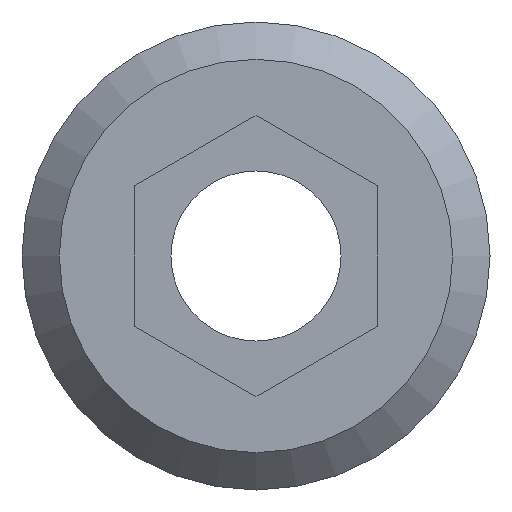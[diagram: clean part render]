
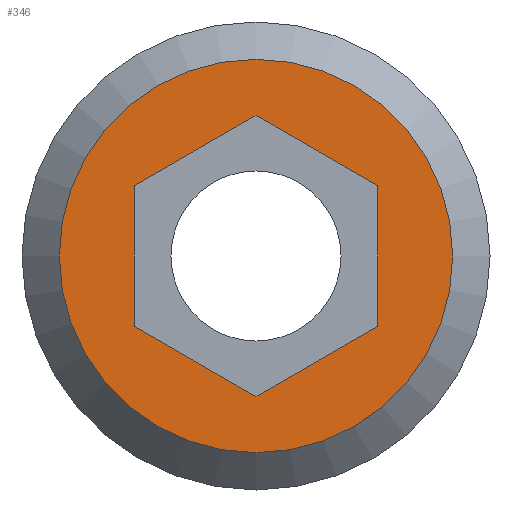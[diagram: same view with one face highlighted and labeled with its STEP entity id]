
A CAD part, front view. The second image highlights one B-rep face of the part: STEP entity #346.
In plain terms, the highlighted planar face has unit normal (0, -1, 0).
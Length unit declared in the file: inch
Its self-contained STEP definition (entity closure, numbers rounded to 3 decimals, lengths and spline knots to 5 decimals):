
#26=FACE_BOUND('',#89,.T.);
#43=CIRCLE('',#393,0.126);
#66=FACE_OUTER_BOUND('',#88,.T.);
#88=EDGE_LOOP('',(#293));
#89=EDGE_LOOP('',(#294,#295,#296,#297,#298,#299));
#95=LINE('',#524,#119);
#99=LINE('',#532,#123);
#102=LINE('',#538,#126);
#105=LINE('',#544,#129);
#108=LINE('',#550,#132);
#111=LINE('',#555,#135);
#119=VECTOR('',#412,0.3937);
#123=VECTOR('',#418,0.3937);
#126=VECTOR('',#423,0.3937);
#129=VECTOR('',#428,0.3937);
#132=VECTOR('',#433,0.3937);
#135=VECTOR('',#438,0.3937);
#143=VERTEX_POINT('',#522);
#144=VERTEX_POINT('',#523);
#147=VERTEX_POINT('',#531);
#149=VERTEX_POINT('',#537);
#151=VERTEX_POINT('',#543);
#153=VERTEX_POINT('',#549);
#168=VERTEX_POINT('',#593);
#177=EDGE_CURVE('',#143,#144,#95,.T.);
#181=EDGE_CURVE('',#147,#143,#99,.T.);
#184=EDGE_CURVE('',#149,#147,#102,.T.);
#187=EDGE_CURVE('',#151,#149,#105,.T.);
#190=EDGE_CURVE('',#153,#151,#108,.T.);
#193=EDGE_CURVE('',#144,#153,#111,.T.);
#211=EDGE_CURVE('',#168,#168,#43,.T.);
#293=ORIENTED_EDGE('',*,*,#211,.F.);
#294=ORIENTED_EDGE('',*,*,#177,.T.);
#295=ORIENTED_EDGE('',*,*,#193,.T.);
#296=ORIENTED_EDGE('',*,*,#190,.T.);
#297=ORIENTED_EDGE('',*,*,#187,.T.);
#298=ORIENTED_EDGE('',*,*,#184,.T.);
#299=ORIENTED_EDGE('',*,*,#181,.T.);
#330=PLANE('',#399);
#346=ADVANCED_FACE('',(#66,#26),#330,.T.);
#393=AXIS2_PLACEMENT_3D('',#594,#485,#486);
#399=AXIS2_PLACEMENT_3D('',#606,#499,#500);
#412=DIRECTION('',(0.866,0.,-0.5));
#418=DIRECTION('',(0.866,0.,0.5));
#423=DIRECTION('',(0.,0.,1.));
#428=DIRECTION('',(-0.866,0.,0.5));
#433=DIRECTION('',(-0.866,0.,-0.5));
#438=DIRECTION('',(0.,0.,-1.));
#485=DIRECTION('center_axis',(0.,1.,0.));
#486=DIRECTION('ref_axis',(0.,0.,1.));
#499=DIRECTION('center_axis',(0.,-1.,0.));
#500=DIRECTION('ref_axis',(0.,0.,-1.));
#522=CARTESIAN_POINT('',(0.,0.,0.09007));
#523=CARTESIAN_POINT('',(0.078,0.,0.04503));
#524=CARTESIAN_POINT('',(0.0313,0.,0.072));
#531=CARTESIAN_POINT('',(-0.078,0.,0.04503));
#532=CARTESIAN_POINT('',(-0.0703,0.,0.04948));
#537=CARTESIAN_POINT('',(-0.078,0.,-0.04503));
#538=CARTESIAN_POINT('',(-0.078,0.,-0.04977));
#543=CARTESIAN_POINT('',(0.,0.,-0.09007));
#544=CARTESIAN_POINT('',(-0.0077,0.,-0.08562));
#549=CARTESIAN_POINT('',(0.078,0.,-0.04503));
#550=CARTESIAN_POINT('',(0.0467,0.,-0.0631));
#555=CARTESIAN_POINT('',(0.078,0.,-0.00473));
#593=CARTESIAN_POINT('',(0.,0.,-0.126));
#594=CARTESIAN_POINT('Origin',(0.,0.,0.));
#606=CARTESIAN_POINT('Origin',(0.,0.,-0.0545));
